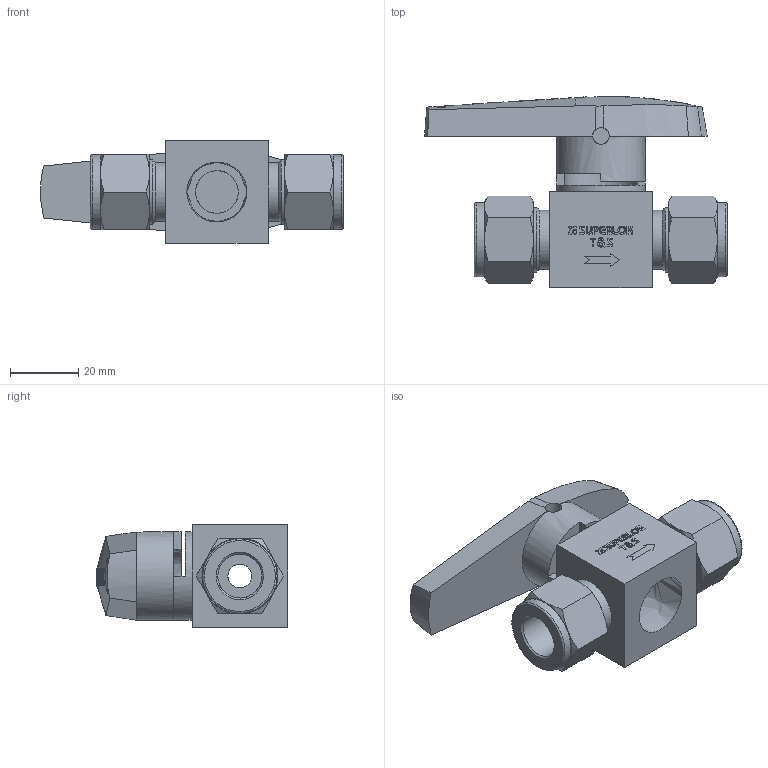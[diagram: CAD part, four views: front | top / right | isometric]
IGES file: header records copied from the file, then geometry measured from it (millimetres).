
Global section: file name: SPV132-S8; native system: Autodesk Inventor 2016; preprocessor: unknown; author: DESIGNPC2; date: 20160502.093709; units: millimetre
Bounding box: 88.83 x 56.05 x 30.01 mm (x, y, z)
Volume: 49461.5 mm3; surface area: 18932.6 mm2
Topology: 2 solids, 2 shells, 469 faces, 1251 edges, 834 vertices
Faces by surface type: bspline 469
